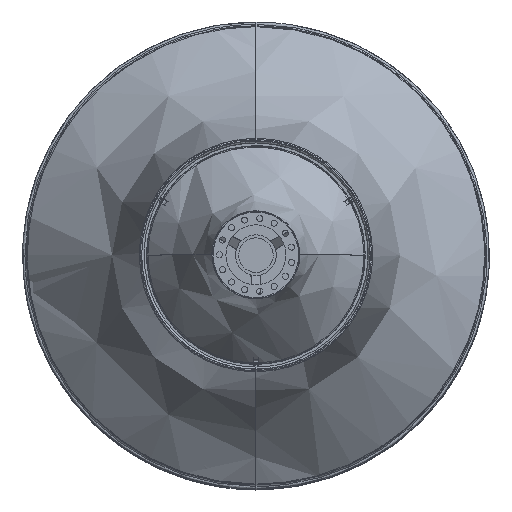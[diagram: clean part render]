
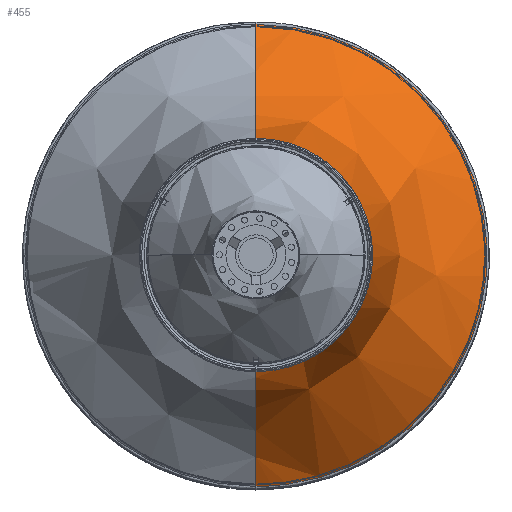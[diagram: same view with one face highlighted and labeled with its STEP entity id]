
A CAD part, top view. The second image highlights one B-rep face of the part: STEP entity #455.
In plain terms, the highlighted free-form (B-spline) face has degree [2, 2] with [3, 5] control points.
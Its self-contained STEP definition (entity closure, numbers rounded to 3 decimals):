
#455=ADVANCED_FACE('',(#746),#4315,.T.);
#746=FACE_OUTER_BOUND('',#1039,.T.);
#1039=EDGE_LOOP('',(#1568,#1569,#1570,#1571));
#1568=ORIENTED_EDGE('',*,*,#2840,.F.);
#1569=ORIENTED_EDGE('',*,*,#2847,.T.);
#1570=ORIENTED_EDGE('',*,*,#2838,.F.);
#1571=ORIENTED_EDGE('',*,*,#2846,.F.);
#2838=EDGE_CURVE('',#3913,#3917,#3541,.T.);
#2840=EDGE_CURVE('',#3918,#3914,#3543,.T.);
#2846=EDGE_CURVE('',#3914,#3913,#3549,.T.);
#2847=EDGE_CURVE('',#3918,#3917,#3550,.T.);
#3541=(
BOUNDED_CURVE()
B_SPLINE_CURVE(2,(#6224,#6225,#6226),.UNSPECIFIED.,.F.,.F.)
B_SPLINE_CURVE_WITH_KNOTS((3,3),(1462.398,1767.486),
 .UNSPECIFIED.)
CURVE()
GEOMETRIC_REPRESENTATION_ITEM()
RATIONAL_B_SPLINE_CURVE((1.,0.853,1.))
REPRESENTATION_ITEM('')
);
#3543=(
BOUNDED_CURVE()
B_SPLINE_CURVE(2,(#6232,#6233,#6234),.UNSPECIFIED.,.F.,.F.)
B_SPLINE_CURVE_WITH_KNOTS((3,3),(-1767.486,-1462.398),
 .UNSPECIFIED.)
CURVE()
GEOMETRIC_REPRESENTATION_ITEM()
RATIONAL_B_SPLINE_CURVE((1.,0.853,1.))
REPRESENTATION_ITEM('')
);
#3549=(
BOUNDED_CURVE()
B_SPLINE_CURVE(2,(#6256,#6257,#6258,#6259,#6260),.UNSPECIFIED.,.F.,.F.)
B_SPLINE_CURVE_WITH_KNOTS((3,2,3),(0.,400.,800.),
 .UNSPECIFIED.)
CURVE()
GEOMETRIC_REPRESENTATION_ITEM()
RATIONAL_B_SPLINE_CURVE((1.,0.707,1.,0.707,1.))
REPRESENTATION_ITEM('')
);
#3550=(
BOUNDED_CURVE()
B_SPLINE_CURVE(2,(#6261,#6262,#6263,#6264,#6265),.UNSPECIFIED.,.F.,.F.)
B_SPLINE_CURVE_WITH_KNOTS((3,2,3),(0.,928.636,1857.272),
 .UNSPECIFIED.)
CURVE()
GEOMETRIC_REPRESENTATION_ITEM()
RATIONAL_B_SPLINE_CURVE((1.,0.707,1.,0.707,1.))
REPRESENTATION_ITEM('')
);
#3913=VERTEX_POINT('',#6160);
#3914=VERTEX_POINT('',#6161);
#3917=VERTEX_POINT('',#6164);
#3918=VERTEX_POINT('',#6165);
#4315=(
BOUNDED_SURFACE()
B_SPLINE_SURFACE(2,2,((#6120,#6121,#6122,#6123,#6124),(#6125,#6126,#6127,
#6128,#6129),(#6130,#6131,#6132,#6133,#6134)),.UNSPECIFIED.,.F.,.F.,.F.)
B_SPLINE_SURFACE_WITH_KNOTS((3,3),(3,2,3),(1462.398,1767.486),
(0.,928.636,1857.272),.UNSPECIFIED.)
GEOMETRIC_REPRESENTATION_ITEM()
RATIONAL_B_SPLINE_SURFACE(((0.875,0.619,0.875,
0.619,0.875),(0.798,0.564,
0.798,0.564,0.798),(1.,0.707,
1.,0.707,1.)))
REPRESENTATION_ITEM('')
SURFACE()
);
#6120=CARTESIAN_POINT('',(0.108,198.,1565.768));
#6121=CARTESIAN_POINT('',(198.108,198.,1565.768));
#6122=CARTESIAN_POINT('',(198.108,0.,1565.768));
#6123=CARTESIAN_POINT('',(198.108,-198.,1565.768));
#6124=CARTESIAN_POINT('',(0.108,-198.,1565.768));
#6125=CARTESIAN_POINT('',(0.108,98.26,1616.739));
#6126=CARTESIAN_POINT('',(98.368,98.26,1616.739));
#6127=CARTESIAN_POINT('',(98.368,0.,1616.739));
#6128=CARTESIAN_POINT('',(98.368,-98.26,1616.739));
#6129=CARTESIAN_POINT('',(0.108,-98.26,1616.739));
#6130=CARTESIAN_POINT('',(0.108,98.26,1728.749));
#6131=CARTESIAN_POINT('',(98.368,98.26,1728.749));
#6132=CARTESIAN_POINT('',(98.368,0.,1728.749));
#6133=CARTESIAN_POINT('',(98.368,-98.26,1728.749));
#6134=CARTESIAN_POINT('',(0.108,-98.26,1728.749));
#6160=CARTESIAN_POINT('',(0.108,-198.,1565.768));
#6161=CARTESIAN_POINT('',(0.108,198.,1565.768));
#6164=CARTESIAN_POINT('',(0.108,-98.26,1728.749));
#6165=CARTESIAN_POINT('',(0.108,98.26,1728.749));
#6224=CARTESIAN_POINT('',(0.108,-198.,1565.768));
#6225=CARTESIAN_POINT('',(0.108,-98.26,1616.739));
#6226=CARTESIAN_POINT('',(0.108,-98.26,1728.749));
#6232=CARTESIAN_POINT('',(0.108,98.26,1728.749));
#6233=CARTESIAN_POINT('',(0.108,98.26,1616.739));
#6234=CARTESIAN_POINT('',(0.108,198.,1565.768));
#6256=CARTESIAN_POINT('',(0.108,198.,1565.768));
#6257=CARTESIAN_POINT('',(198.108,198.,1565.768));
#6258=CARTESIAN_POINT('',(198.108,0.,1565.768));
#6259=CARTESIAN_POINT('',(198.108,-198.,1565.768));
#6260=CARTESIAN_POINT('',(0.108,-198.,1565.768));
#6261=CARTESIAN_POINT('',(0.108,98.26,1728.749));
#6262=CARTESIAN_POINT('',(98.368,98.26,1728.749));
#6263=CARTESIAN_POINT('',(98.368,0.,1728.749));
#6264=CARTESIAN_POINT('',(98.368,-98.26,1728.749));
#6265=CARTESIAN_POINT('',(0.108,-98.26,1728.749));
